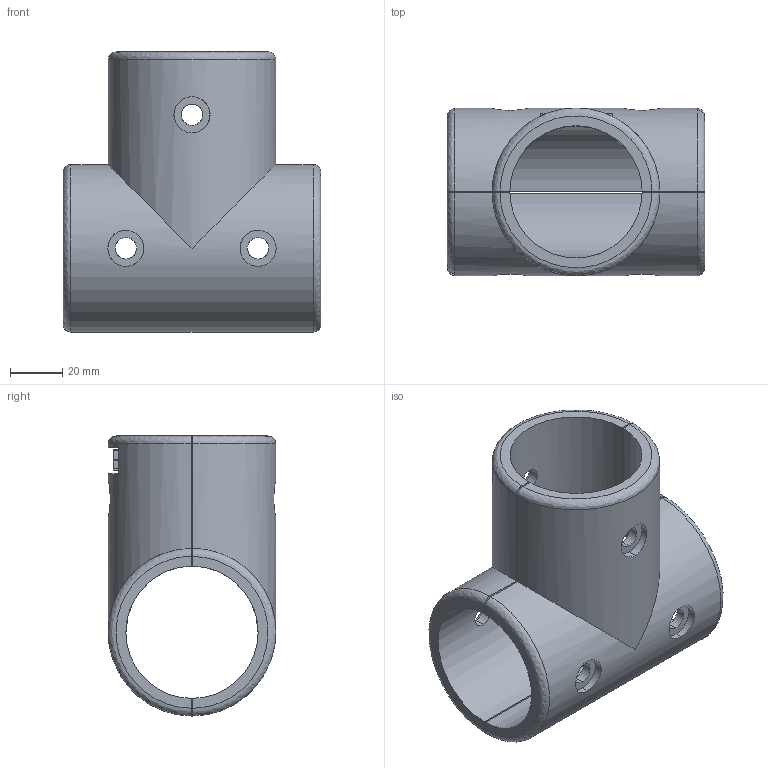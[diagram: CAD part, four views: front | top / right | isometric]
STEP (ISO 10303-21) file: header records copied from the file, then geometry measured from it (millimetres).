
FILE_DESCRIPTION (( 'STEP AP203' ), '1' );
FILE_NAME ('RAILEX STANDARD RXR-TCJH3.STEP', '2021-06-17T15:34:39', ( '' ), ( '' ), 'SwSTEP 2.0', 'SolidWorks 2020', '' );
FILE_SCHEMA (( 'CONFIG_CONTROL_DESIGN' ));
Length unit declared in the file: millimetre
Products named in the file (1): RAILEX STANDARD RXR-TCJH3
Bounding box: 98.5 x 64 x 107 mm (x, y, z)
Volume: 159557.2 mm3; surface area: 56744.3 mm2
Topology: 3 solids, 3 shells, 319 faces, 847 edges, 566 vertices
Faces by surface type: plane 196, bspline 87, cylinder 36
Entity records: 13956 total; most frequent: CARTESIAN_POINT 6558, ORIENTED_EDGE 1694, DIRECTION 1147, EDGE_CURVE 847, VECTOR 589, LINE 589, VERTEX_POINT 566, EDGE_LOOP 363
